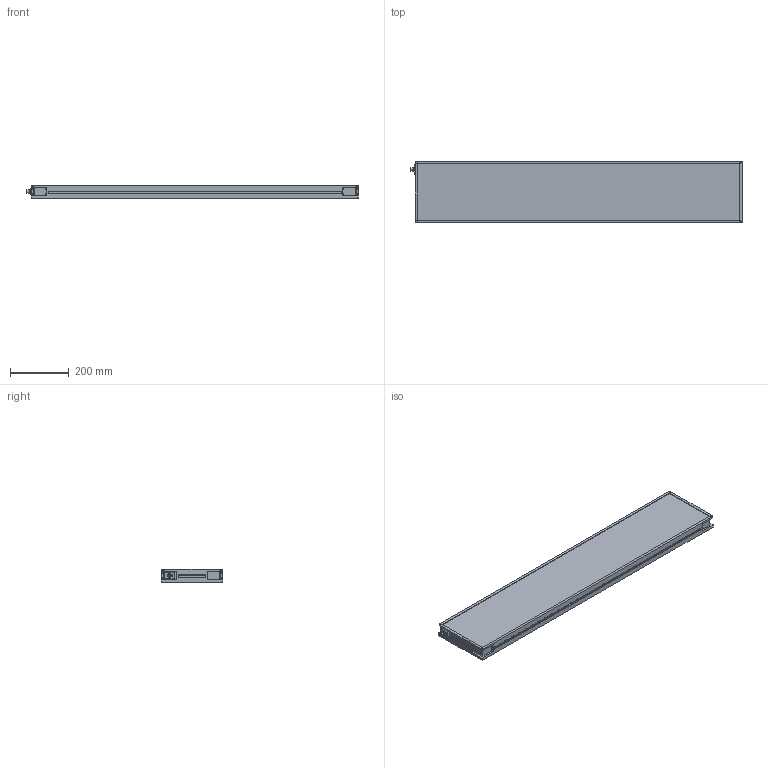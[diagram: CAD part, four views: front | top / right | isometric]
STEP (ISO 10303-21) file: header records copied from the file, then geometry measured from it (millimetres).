
FILE_DESCRIPTION (( 'STEP AP214' ), '1' );
FILE_NAME ('MBACK-xxxx-xxx-M1_CLIENT200x1100.STEP', '2022-03-31T15:57:23', ( '' ), ( '' ), 'SwSTEP 2.0', 'SolidWorks 2020', '' );
FILE_SCHEMA (( 'AUTOMOTIVE_DESIGN' ));
Length unit declared in the file: millimetre
Products named in the file (1): MBACK-xxxx-xxx-M1_CLIENT200x1100
Bounding box: 1125.9 x 208 x 45.5 mm (x, y, z)
Volume: 9525207.8 mm3; surface area: 635601.6 mm2
Topology: 1 solids, 1 shells, 442 faces, 1144 edges, 760 vertices
Faces by surface type: plane 249, cylinder 105, bspline 80, cone 8
Entity records: 17236 total; most frequent: CARTESIAN_POINT 6699, ORIENTED_EDGE 2288, DIRECTION 1936, EDGE_CURVE 1144, VERTEX_POINT 760, VECTOR 758, LINE 758, AXIS2_PLACEMENT_3D 589
